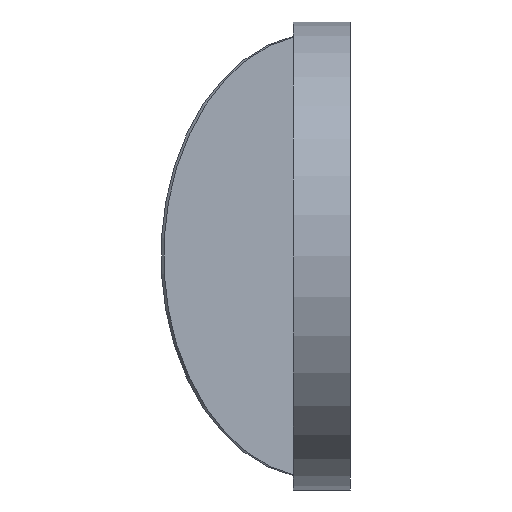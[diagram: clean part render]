
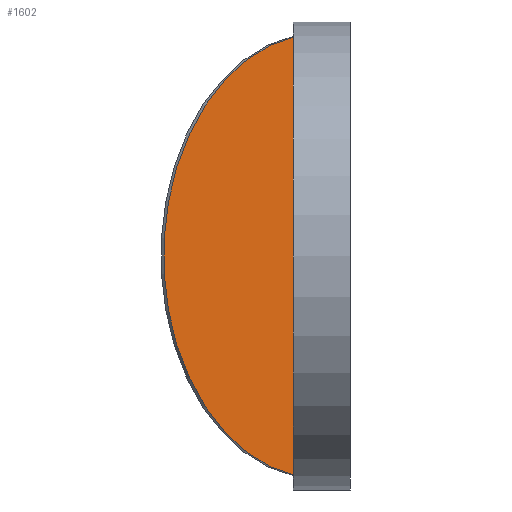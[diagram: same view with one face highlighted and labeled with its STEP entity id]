
A CAD part, left-side view. The second image highlights one B-rep face of the part: STEP entity #1602.
In plain terms, the highlighted planar face has unit normal (-0.707, -0.707, 0).
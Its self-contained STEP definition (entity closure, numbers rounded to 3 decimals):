
#59=ELLIPSE('',#1671,108.187,76.5);
#64=ELLIPSE('',#1703,108.187,76.5);
#99=CIRCLE('',#1720,77.5);
#240=FACE_OUTER_BOUND('',#311,.T.);
#311=EDGE_LOOP('',(#1252,#1253,#1254,#1255,#1256,#1257,#1258,#1259,#1260,
#1261,#1262,#1263,#1264,#1265));
#450=LINE('',#2509,#630);
#451=LINE('',#2512,#631);
#454=LINE('',#2518,#634);
#455=LINE('',#2520,#635);
#456=LINE('',#2522,#636);
#457=LINE('',#2524,#637);
#458=LINE('',#2526,#638);
#459=LINE('',#2528,#639);
#460=LINE('',#2530,#640);
#461=LINE('',#2532,#641);
#462=LINE('',#2533,#642);
#630=VECTOR('',#2034,10.);
#631=VECTOR('',#2037,10.);
#634=VECTOR('',#2042,10.);
#635=VECTOR('',#2043,10.);
#636=VECTOR('',#2044,10.);
#637=VECTOR('',#2045,10.);
#638=VECTOR('',#2046,10.);
#639=VECTOR('',#2047,10.);
#640=VECTOR('',#2048,10.);
#641=VECTOR('',#2049,10.);
#642=VECTOR('',#2050,10.);
#776=VERTEX_POINT('',#2375);
#777=VERTEX_POINT('',#2377);
#799=VERTEX_POINT('',#2451);
#800=VERTEX_POINT('',#2456);
#817=VERTEX_POINT('',#2507);
#818=VERTEX_POINT('',#2511);
#820=VERTEX_POINT('',#2517);
#821=VERTEX_POINT('',#2519);
#822=VERTEX_POINT('',#2521);
#823=VERTEX_POINT('',#2523);
#824=VERTEX_POINT('',#2525);
#825=VERTEX_POINT('',#2527);
#826=VERTEX_POINT('',#2529);
#827=VERTEX_POINT('',#2531);
#934=EDGE_CURVE('',#776,#777,#59,.T.);
#969=EDGE_CURVE('',#799,#800,#64,.T.);
#993=EDGE_CURVE('',#777,#799,#99,.T.);
#996=EDGE_CURVE('',#817,#776,#450,.T.);
#997=EDGE_CURVE('',#800,#818,#451,.T.);
#1000=EDGE_CURVE('',#820,#817,#454,.T.);
#1001=EDGE_CURVE('',#821,#820,#455,.T.);
#1002=EDGE_CURVE('',#822,#821,#456,.T.);
#1003=EDGE_CURVE('',#823,#822,#457,.T.);
#1004=EDGE_CURVE('',#824,#823,#458,.T.);
#1005=EDGE_CURVE('',#825,#824,#459,.T.);
#1006=EDGE_CURVE('',#826,#825,#460,.T.);
#1007=EDGE_CURVE('',#827,#826,#461,.T.);
#1008=EDGE_CURVE('',#818,#827,#462,.T.);
#1252=ORIENTED_EDGE('',*,*,#969,.F.);
#1253=ORIENTED_EDGE('',*,*,#993,.F.);
#1254=ORIENTED_EDGE('',*,*,#934,.F.);
#1255=ORIENTED_EDGE('',*,*,#996,.F.);
#1256=ORIENTED_EDGE('',*,*,#1000,.F.);
#1257=ORIENTED_EDGE('',*,*,#1001,.F.);
#1258=ORIENTED_EDGE('',*,*,#1002,.F.);
#1259=ORIENTED_EDGE('',*,*,#1003,.F.);
#1260=ORIENTED_EDGE('',*,*,#1004,.F.);
#1261=ORIENTED_EDGE('',*,*,#1005,.F.);
#1262=ORIENTED_EDGE('',*,*,#1006,.F.);
#1263=ORIENTED_EDGE('',*,*,#1007,.F.);
#1264=ORIENTED_EDGE('',*,*,#1008,.F.);
#1265=ORIENTED_EDGE('',*,*,#997,.F.);
#1534=PLANE('',#1723);
#1602=ADVANCED_FACE('',(#240),#1534,.T.);
#1671=AXIS2_PLACEMENT_3D('',#2378,#1908,#1909);
#1703=AXIS2_PLACEMENT_3D('',#2457,#1980,#1981);
#1720=AXIS2_PLACEMENT_3D('',#2503,#2028,#2029);
#1723=AXIS2_PLACEMENT_3D('',#2516,#2040,#2041);
#1908=DIRECTION('center_axis',(0.707,0.707,0.));
#1909=DIRECTION('ref_axis',(-0.707,0.707,0.));
#1980=DIRECTION('center_axis',(0.707,0.707,0.));
#1981=DIRECTION('ref_axis',(-0.707,0.707,0.));
#2028=DIRECTION('center_axis',(0.707,0.707,0.));
#2029=DIRECTION('ref_axis',(-0.113,0.113,-0.987));
#2034=DIRECTION('',(0.,0.,-1.));
#2037=DIRECTION('',(0.,0.,-1.));
#2040=DIRECTION('center_axis',(-0.707,-0.707,0.));
#2041=DIRECTION('ref_axis',(0.,0.,1.));
#2042=DIRECTION('',(0.577,-0.577,0.577));
#2043=DIRECTION('',(0.,0.,-1.));
#2044=DIRECTION('',(-0.577,0.577,-0.577));
#2045=DIRECTION('',(0.707,-0.707,0.));
#2046=DIRECTION('',(0.,0.,-1.));
#2047=DIRECTION('',(-0.707,0.707,0.));
#2048=DIRECTION('',(0.577,-0.577,-0.577));
#2049=DIRECTION('',(0.,0.,-1.));
#2050=DIRECTION('',(-0.577,0.577,0.577));
#2375=CARTESIAN_POINT('',(-1.693,9.057,-76.481));
#2377=CARTESIAN_POINT('',(-1.765,9.13,-76.48));
#2378=CARTESIAN_POINT('Origin',(0.,7.364,0.));
#2451=CARTESIAN_POINT('',(-1.765,9.13,76.48));
#2456=CARTESIAN_POINT('',(-1.693,9.057,76.481));
#2457=CARTESIAN_POINT('Origin',(0.,7.364,0.));
#2503=CARTESIAN_POINT('Origin',(7.098,0.266,0.));
#2507=CARTESIAN_POINT('',(-1.693,9.057,-2.753));
#2509=CARTESIAN_POINT('',(-1.693,9.057,76.496));
#2511=CARTESIAN_POINT('',(-1.693,9.057,2.753));
#2512=CARTESIAN_POINT('',(-1.693,9.057,76.496));
#2516=CARTESIAN_POINT('Origin',(-16.991,24.355,0.));
#2517=CARTESIAN_POINT('',(-2.636,10.,-3.696));
#2518=CARTESIAN_POINT('',(-24.016,31.381,-25.077));
#2519=CARTESIAN_POINT('',(-2.636,10.,-1.575));
#2520=CARTESIAN_POINT('',(-2.636,10.,0.));
#2521=CARTESIAN_POINT('',(-1.811,9.175,-0.75));
#2522=CARTESIAN_POINT('',(-6.456,13.821,-5.396));
#2523=CARTESIAN_POINT('',(-2.636,10.,-0.75));
#2524=CARTESIAN_POINT('',(-28.529,35.894,-0.75));
#2525=CARTESIAN_POINT('',(-2.636,10.,0.75));
#2526=CARTESIAN_POINT('',(-2.636,10.,0.));
#2527=CARTESIAN_POINT('',(-1.811,9.175,0.75));
#2528=CARTESIAN_POINT('',(-9.154,16.519,0.75));
#2529=CARTESIAN_POINT('',(-2.636,10.,1.575));
#2530=CARTESIAN_POINT('',(-24.723,32.088,23.663));
#2531=CARTESIAN_POINT('',(-2.636,10.,3.696));
#2532=CARTESIAN_POINT('',(-2.636,10.,0.));
#2533=CARTESIAN_POINT('',(-5.749,13.114,6.81));
